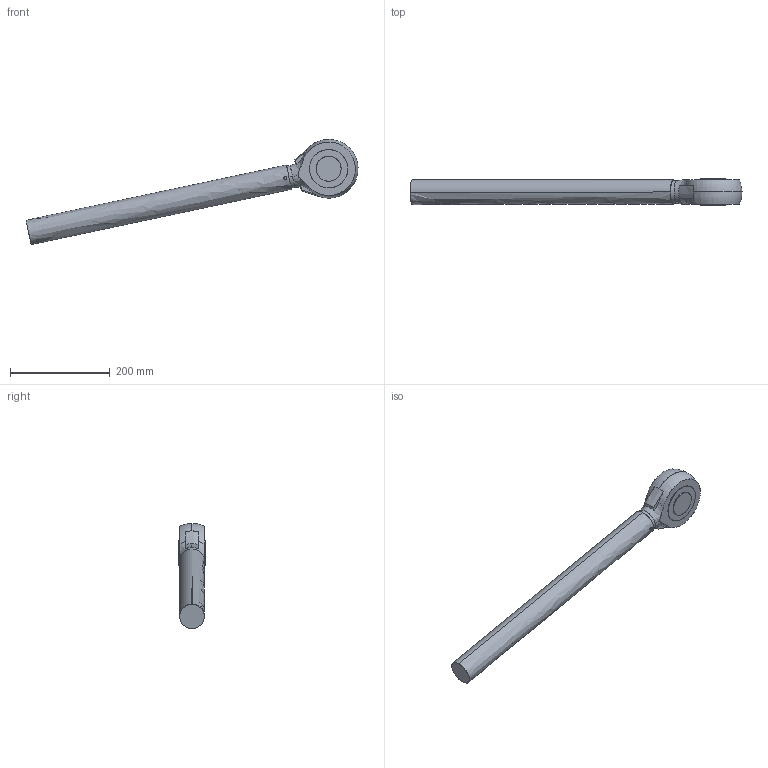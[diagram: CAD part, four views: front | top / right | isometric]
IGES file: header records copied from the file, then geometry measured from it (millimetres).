
Start section: SolidWorks IGES file using analytic representation for surfaces
Global section: file name: B:\Robotics\SEROP_PROJ\Product Development\DevelopmentProjects\RobCal\Design\CAD simuleringsmodeller\Till_RobotStudio\IRB6700-HL\IRB6700_235-265_IRC5_rev02\IRB6700_235-265_IRC5_rev02_IGES_j\IRB6700_235-265_IRC5_rev03_ROD_CAD.IGS; native system: SolidWorks 2014; preprocessor: SolidWorks 2014; author: SEEMTHE; date: 160127.112411; units: millimetre
Bounding box: 667.23 x 55 x 211.35 mm (x, y, z)
Surface area: 126421.1 mm2 (no closed solid volume)
Topology: 0 solids, 0 shells, 36 faces, 1235 edges, 1234 vertices
Faces by surface type: revolution 18, bspline 18
